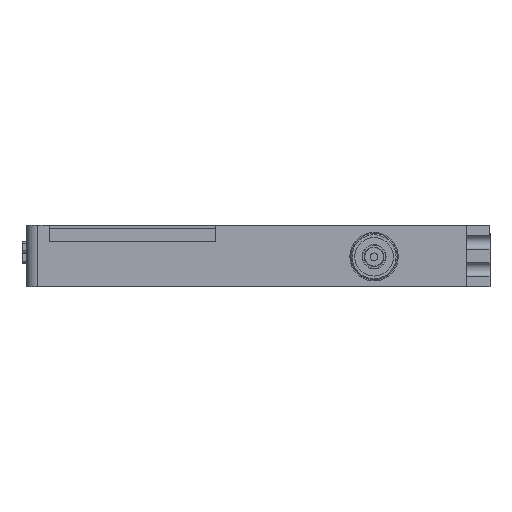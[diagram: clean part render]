
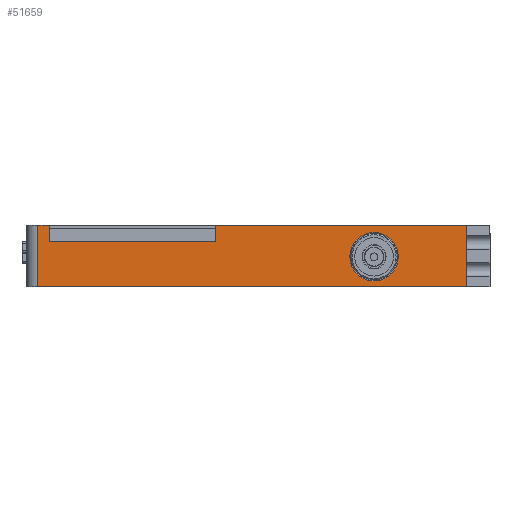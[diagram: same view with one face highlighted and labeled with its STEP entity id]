
A CAD part, front view. The second image highlights one B-rep face of the part: STEP entity #51659.
In plain terms, the highlighted planar face has unit normal (0, -1, 0).
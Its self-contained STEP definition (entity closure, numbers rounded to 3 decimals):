
#821 = VERTEX_POINT ( 'NONE', #4303 ) ;
#1670 = CIRCLE ( 'NONE', #19473, 6.25 ) ;
#2548 = VECTOR ( 'NONE', #74483, 1000. ) ;
#4303 = CARTESIAN_POINT ( 'NONE',  ( -11., -140., 3.8 ) ) ;
#5224 = DIRECTION ( 'NONE',  ( 0., 0., 1. ) ) ;
#6252 = CARTESIAN_POINT ( 'NONE',  ( -54., -140., 3.8 ) ) ;
#6596 = CARTESIAN_POINT ( 'NONE',  ( -54., -140., 8. ) ) ;
#8649 = ORIENTED_EDGE ( 'NONE', *, *, #15231, .F. ) ;
#8956 = CARTESIAN_POINT ( 'NONE',  ( 30., -140., -0.2 ) ) ;
#9975 = ORIENTED_EDGE ( 'NONE', *, *, #78190, .F. ) ;
#10845 = EDGE_LOOP ( 'NONE', ( #17073, #39712 ) ) ;
#11704 = ORIENTED_EDGE ( 'NONE', *, *, #76382, .T. ) ;
#11775 = VECTOR ( 'NONE', #60141, 1000. ) ;
#11778 = VECTOR ( 'NONE', #18461, 1000. ) ;
#15231 = EDGE_CURVE ( 'NONE', #71958, #55875, #35404, .T. ) ;
#15633 = CARTESIAN_POINT ( 'NONE',  ( -11., -140., 8. ) ) ;
#17073 = ORIENTED_EDGE ( 'NONE', *, *, #66858, .F. ) ;
#17633 = CARTESIAN_POINT ( 'NONE',  ( -60., -140., 3.8 ) ) ;
#17923 = VERTEX_POINT ( 'NONE', #27829 ) ;
#18461 = DIRECTION ( 'NONE',  ( 1., 0., 0. ) ) ;
#18945 = CARTESIAN_POINT ( 'NONE',  ( -57., -140., 8. ) ) ;
#19318 = EDGE_CURVE ( 'NONE', #40861, #62172, #82523, .T. ) ;
#19473 = AXIS2_PLACEMENT_3D ( 'NONE', #67063, #34446, #72683 ) ;
#19847 = DIRECTION ( 'NONE',  ( 0., 0., 1. ) ) ;
#22521 = PLANE ( 'NONE',  #37158 ) ;
#23201 = VECTOR ( 'NONE', #19847, 1000. ) ;
#23796 = CARTESIAN_POINT ( 'NONE',  ( -60., -140., 8. ) ) ;
#23822 = CARTESIAN_POINT ( 'NONE',  ( 0., -140., -8. ) ) ;
#25005 = EDGE_CURVE ( 'NONE', #33979, #40765, #1670, .T. ) ;
#27829 = CARTESIAN_POINT ( 'NONE',  ( 54., -140., 8. ) ) ;
#28948 = FACE_OUTER_BOUND ( 'NONE', #29027, .T. ) ;
#29027 = EDGE_LOOP ( 'NONE', ( #39392, #68644, #75690, #9975, #11704, #83733, #34380, #8649 ) ) ;
#30194 = CARTESIAN_POINT ( 'NONE',  ( -60., -140., 8. ) ) ;
#33080 = CARTESIAN_POINT ( 'NONE',  ( 54., -140., -8. ) ) ;
#33849 = DIRECTION ( 'NONE',  ( 0., 0., -1. ) ) ;
#33979 = VERTEX_POINT ( 'NONE', #35806 ) ;
#34380 = ORIENTED_EDGE ( 'NONE', *, *, #58300, .F. ) ;
#34446 = DIRECTION ( 'NONE',  ( 0., -1., 0. ) ) ;
#35404 = LINE ( 'NONE', #23822, #2548 ) ;
#35806 = CARTESIAN_POINT ( 'NONE',  ( 30., -140., 6.05 ) ) ;
#36131 = LINE ( 'NONE', #68814, #48775 ) ;
#37158 = AXIS2_PLACEMENT_3D ( 'NONE', #30194, #69705, #51225 ) ;
#37577 = VERTEX_POINT ( 'NONE', #6252 ) ;
#39392 = ORIENTED_EDGE ( 'NONE', *, *, #46235, .F. ) ;
#39712 = ORIENTED_EDGE ( 'NONE', *, *, #25005, .F. ) ;
#40765 = VERTEX_POINT ( 'NONE', #70986 ) ;
#40861 = VERTEX_POINT ( 'NONE', #40926 ) ;
#40926 = CARTESIAN_POINT ( 'NONE',  ( -57., -140., 8. ) ) ;
#41174 = DIRECTION ( 'NONE',  ( 0., 0., 1. ) ) ;
#44742 = LINE ( 'NONE', #18945, #79086 ) ;
#45998 = LINE ( 'NONE', #65721, #11775 ) ;
#46235 = EDGE_CURVE ( 'NONE', #17923, #71958, #36131, .T. ) ;
#47605 = CARTESIAN_POINT ( 'NONE',  ( -54., -140., -290.082 ) ) ;
#48040 = LINE ( 'NONE', #47605, #75671 ) ;
#48775 = VECTOR ( 'NONE', #62340, 1000. ) ;
#49349 = VECTOR ( 'NONE', #63276, 1000. ) ;
#49819 = EDGE_CURVE ( 'NONE', #821, #63218, #65356, .T. ) ;
#50678 = AXIS2_PLACEMENT_3D ( 'NONE', #8956, #60069, #33849 ) ;
#51225 = DIRECTION ( 'NONE',  ( 0., 0., 1. ) ) ;
#51659 = ADVANCED_FACE ( 'NONE', ( #55984, #28948 ), #22521, .F. ) ;
#55875 = VERTEX_POINT ( 'NONE', #56099 ) ;
#55984 = FACE_BOUND ( 'NONE', #10845, .T. ) ;
#56099 = CARTESIAN_POINT ( 'NONE',  ( -57., -140., -8. ) ) ;
#58300 = EDGE_CURVE ( 'NONE', #55875, #40861, #44742, .T. ) ;
#59369 = CARTESIAN_POINT ( 'NONE',  ( -11., -140., 8. ) ) ;
#60069 = DIRECTION ( 'NONE',  ( 0., -1., 0. ) ) ;
#60141 = DIRECTION ( 'NONE',  ( 1., 0., 0. ) ) ;
#62172 = VERTEX_POINT ( 'NONE', #6596 ) ;
#62340 = DIRECTION ( 'NONE',  ( 0., 0., -1. ) ) ;
#63066 = CIRCLE ( 'NONE', #50678, 6.25 ) ;
#63218 = VERTEX_POINT ( 'NONE', #15633 ) ;
#63276 = DIRECTION ( 'NONE',  ( 1., 0., 0. ) ) ;
#65356 = LINE ( 'NONE', #59369, #23201 ) ;
#65721 = CARTESIAN_POINT ( 'NONE',  ( -60., -140., 8. ) ) ;
#66858 = EDGE_CURVE ( 'NONE', #40765, #33979, #63066, .T. ) ;
#67063 = CARTESIAN_POINT ( 'NONE',  ( 30., -140., -0.2 ) ) ;
#67911 = LINE ( 'NONE', #17633, #11778 ) ;
#68644 = ORIENTED_EDGE ( 'NONE', *, *, #70201, .F. ) ;
#68814 = CARTESIAN_POINT ( 'NONE',  ( 54., -140., -8. ) ) ;
#69705 = DIRECTION ( 'NONE',  ( 0., 1., 0. ) ) ;
#70201 = EDGE_CURVE ( 'NONE', #63218, #17923, #45998, .T. ) ;
#70986 = CARTESIAN_POINT ( 'NONE',  ( 30., -140., -6.45 ) ) ;
#71958 = VERTEX_POINT ( 'NONE', #33080 ) ;
#72683 = DIRECTION ( 'NONE',  ( 0., 0., -1. ) ) ;
#74483 = DIRECTION ( 'NONE',  ( -1., 0., 0. ) ) ;
#75671 = VECTOR ( 'NONE', #41174, 1000. ) ;
#75690 = ORIENTED_EDGE ( 'NONE', *, *, #49819, .F. ) ;
#76382 = EDGE_CURVE ( 'NONE', #37577, #62172, #48040, .T. ) ;
#78190 = EDGE_CURVE ( 'NONE', #37577, #821, #67911, .T. ) ;
#79086 = VECTOR ( 'NONE', #5224, 1000. ) ;
#82523 = LINE ( 'NONE', #23796, #49349 ) ;
#83733 = ORIENTED_EDGE ( 'NONE', *, *, #19318, .F. ) ;
